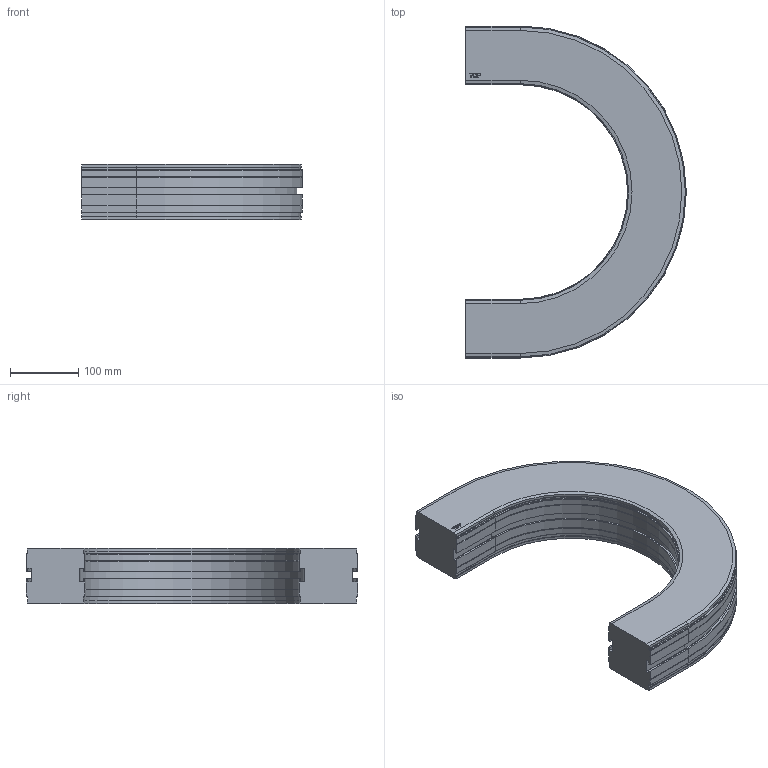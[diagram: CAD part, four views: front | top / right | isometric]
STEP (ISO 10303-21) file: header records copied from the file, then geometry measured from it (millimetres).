
FILE_DESCRIPTION((''),'2;1');
FILE_NAME('C:\Vault Klient\Projekt\Koncept konstruktion\Serie 830 Balk\830-5170.stp','2009-11-27T08:55:48',('Mathias'),(''),'Autodesk Inventor 2010','Autodesk Inventor 2010','');
FILE_SCHEMA(('AUTOMOTIVE_DESIGN { 1 0 10303 214 1 1 1 1 }'));
Length unit declared in the file: millimetre
Products named in the file (1): 830-5170
Bounding box: 323 x 486 x 81.5 mm (x, y, z)
Volume: 5239860 mm3; surface area: 335405 mm2
Topology: 1 solids, 1 shells, 169 faces, 446 edges, 284 vertices
Faces by surface type: plane 109, cylinder 30, bspline 14, cone 12, torus 4
Entity records: 5295 total; most frequent: CARTESIAN_POINT 1094, ORIENTED_EDGE 892, DIRECTION 802, EDGE_CURVE 446, VECTOR 346, LINE 346, VERTEX_POINT 284, AXIS2_PLACEMENT_3D 228
